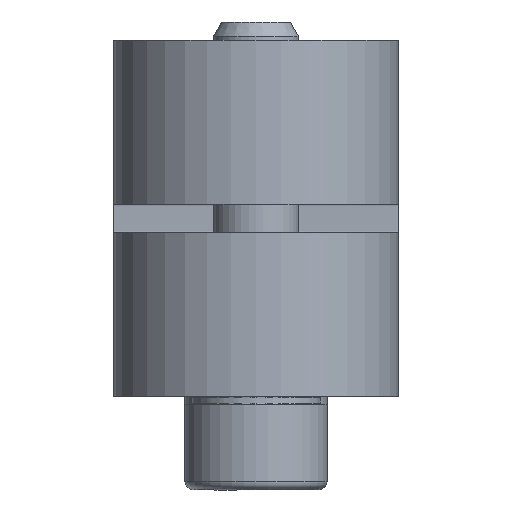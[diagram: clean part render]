
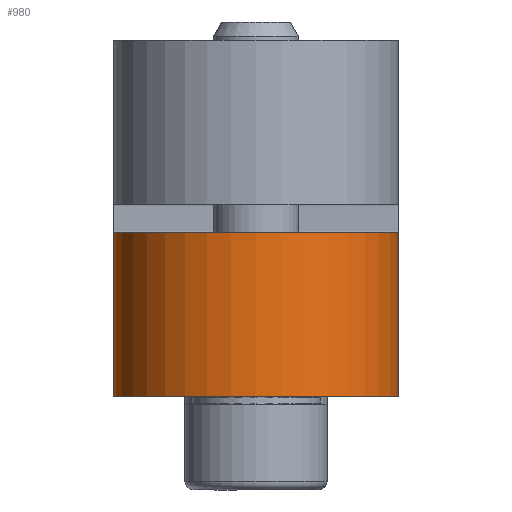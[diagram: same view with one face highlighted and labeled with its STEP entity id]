
A CAD part, front view. The second image highlights one B-rep face of the part: STEP entity #980.
In plain terms, the highlighted cylindrical face has radius 10 mm (diameter 20 mm), a partial arc.
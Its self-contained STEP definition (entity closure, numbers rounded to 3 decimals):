
#980=ADVANCED_FACE('',(#1778),#1779,.T.);
#1778=FACE_OUTER_BOUND('',#2567,.T.);
#1779=CYLINDRICAL_SURFACE('',#2568,10.0);
#2567=EDGE_LOOP('',(#4789,#4790,#4791,#4792));
#2568=AXIS2_PLACEMENT_3D('',#4793,#4794,#4795);
#4789=ORIENTED_EDGE('',*,*,#5880,.T.);
#4790=ORIENTED_EDGE('',*,*,#5897,.T.);
#4791=ORIENTED_EDGE('',*,*,#5889,.F.);
#4792=ORIENTED_EDGE('',*,*,#5898,.F.);
#4793=CARTESIAN_POINT('',(10.0,-18.25,-12.9));
#4794=DIRECTION('',(0.0,0.0,1.0));
#4795=DIRECTION('',(1.0,0.0,0.0));
#5880=EDGE_CURVE('',#7245,#7246,#7247,.T.);
#5889=EDGE_CURVE('',#7259,#7256,#7261,.T.);
#5897=EDGE_CURVE('',#7246,#7256,#7271,.T.);
#5898=EDGE_CURVE('',#7245,#7259,#7272,.T.);
#7245=VERTEX_POINT('',#9064);
#7246=VERTEX_POINT('',#9065);
#7247=CIRCLE('',#9066,10.0);
#7256=VERTEX_POINT('',#9078);
#7259=VERTEX_POINT('',#9083);
#7261=CIRCLE('',#9086,10.0);
#7271=LINE('',#9098,#9099);
#7272=LINE('',#9100,#9101);
#9064=CARTESIAN_POINT('',(0.,-18.25,1.));
#9065=CARTESIAN_POINT('',(20.0,-18.25,1.));
#9066=AXIS2_PLACEMENT_3D('',#10294,#10295,#10296);
#9078=CARTESIAN_POINT('',(20.0,-18.25,12.5));
#9083=CARTESIAN_POINT('',(0.,-18.25,12.5));
#9086=AXIS2_PLACEMENT_3D('',#10306,#10307,#10308);
#9098=CARTESIAN_POINT('',(20.0,-18.25,-12.9));
#9099=VECTOR('',#10314,1.0);
#9100=CARTESIAN_POINT('',(0.,-18.25,-12.9));
#9101=VECTOR('',#10315,1.0);
#10294=CARTESIAN_POINT('',(10.0,-18.25,1.));
#10295=DIRECTION('',(0.0,0.0,1.0));
#10296=DIRECTION('',(1.0,0.0,0.0));
#10306=CARTESIAN_POINT('',(10.0,-18.25,12.5));
#10307=DIRECTION('',(0.0,-0.0,1.0));
#10308=DIRECTION('',(0.0,1.0,0.0));
#10314=DIRECTION('',(0.0,0.0,1.0));
#10315=DIRECTION('',(0.0,0.0,1.0));
